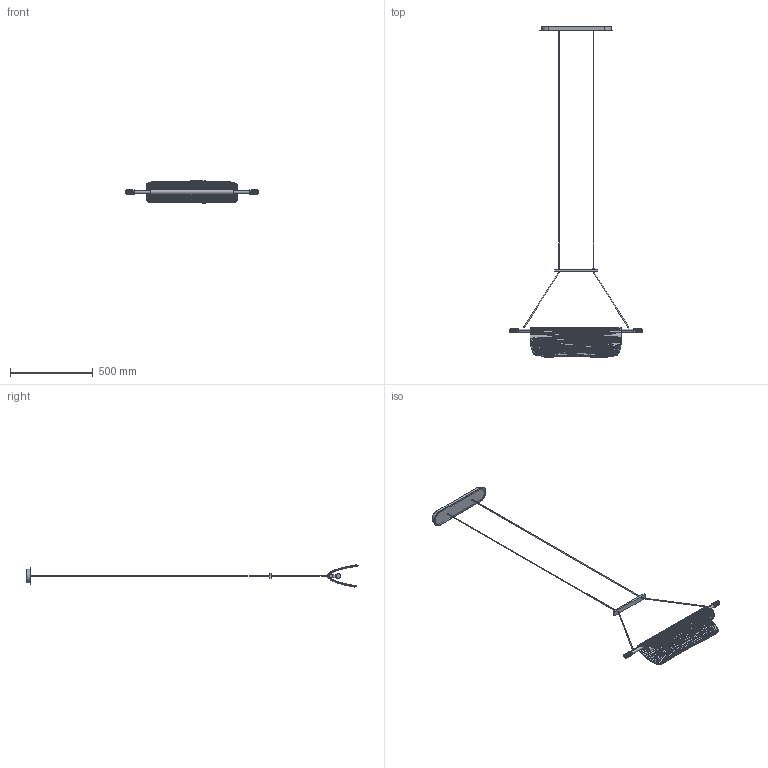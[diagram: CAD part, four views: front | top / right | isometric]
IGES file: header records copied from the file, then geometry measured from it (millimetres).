
Start section: SolidWorks IGES file using analytic representation for surfaces
Global section: file name: C:\Users\adrian\Desktop\Nueva Colección Enero 2026\3D\drive-download-20251230T145340Z-1-001\LIDA\C1357.IGS; native system: SolidWorks 2023; preprocessor: SolidWorks 2023; author: adrian; date: 251230.164853; units: millimetre
Bounding box: 798 x 2001.06 x 132.62 mm (x, y, z)
Surface area: 714980 mm2 (no closed solid volume)
Topology: 0 solids, 0 shells, 7936 faces, 28195 edges, 28131 vertices
Faces by surface type: bspline 7607, revolution 329
